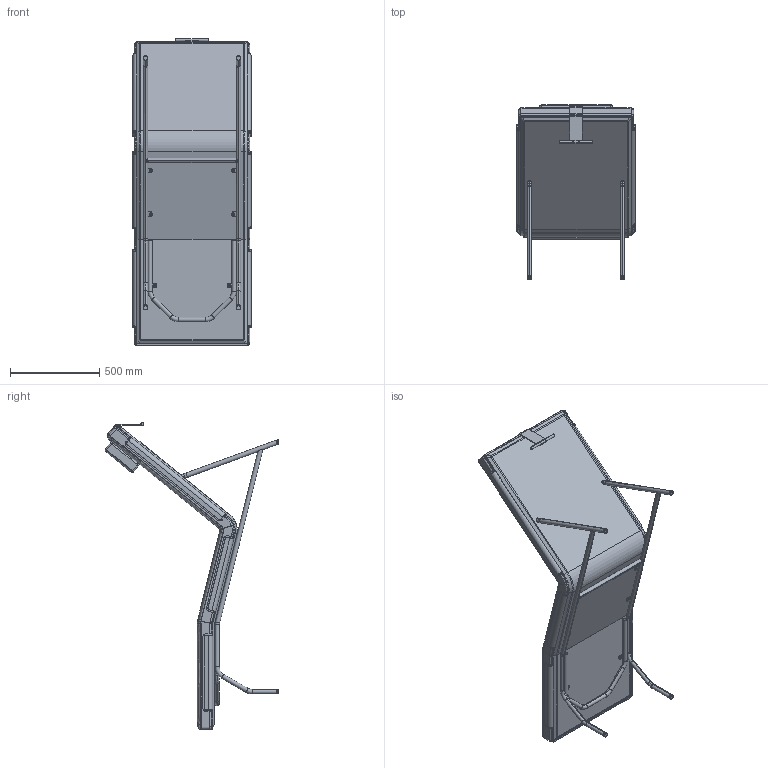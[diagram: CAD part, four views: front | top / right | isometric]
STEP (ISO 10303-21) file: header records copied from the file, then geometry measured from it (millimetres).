
FILE_DESCRIPTION (( 'STEP AP214' ), '1' );
FILE_NAME ('FG53900-00-00.STEP', '2023-06-26T08:38:17', ( '' ), ( '' ), 'SwSTEP 2.0', 'SolidWorks 2020', '' );
FILE_SCHEMA (( 'AUTOMOTIVE_DESIGN' ));
Length unit declared in the file: millimetre
Products named in the file (9): MN010004PXO; PA53900-07-00; VT0100054P4; PA53900-08-00; FG53900-00-00; FS53900-01-00_Default<A macchina>; VT0100039ZP; CUOIO^FG53900-00-00; IMBOTTITO^FG53900-00-00
Assembly tree (17 placements, depth 2):
  FG53900-00-00
    FS53900-01-00_Default<A macchina>
    PA53900-07-00
    PA53900-08-00
    CUOIO^FG53900-00-00
    IMBOTTITO^FG53900-00-00
    VT0100054P4  x2
    VT0100039ZP  x6
    MN010004PXO  x4
Bounding box: 664 x 972.43 x 1716.59 mm (x, y, z)
Volume: 130989104.6 mm3; surface area: 9984602.5 mm2
Topology: 38 solids, 38 shells, 1872 faces, 4219 edges, 2425 vertices
Faces by surface type: cone 604, cylinder 478, plane 329, bspline 253, torus 168, sphere 40
Entity records: 61683 total; most frequent: CARTESIAN_POINT 33860, ORIENTED_EDGE 5898, DIRECTION 5368, EDGE_CURVE 2949, AXIS2_PLACEMENT_3D 2143, VERTEX_POINT 1749, EDGE_LOOP 1302, ADVANCED_FACE 1258
